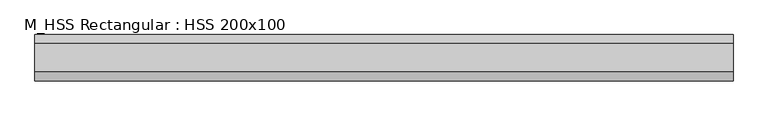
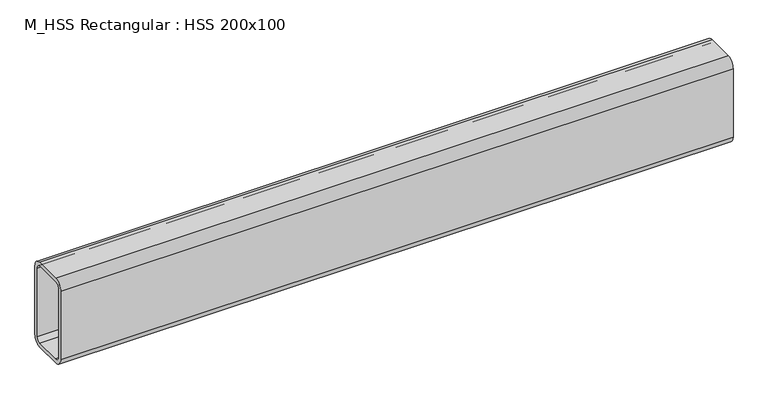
"""IFC4 building model written with IfcOpenShell, lengths in millimetres: beam geometry, M_HSS Rectangular : HSS 200x100."""

from ifc_helpers import new_model, si_unit, point, frame, frame_2d, origin, place, context, project, spatial, polyline, circle_curve, trimmed, segment, composite_curve, outline, extrude, source, transform, mapped, element, save


def m_hss_rectangular_hss_200x100_f713b872(model_context):
    return source(origin(), model_context, "Body", "SweptSolid", [
        extrude(outline(composite_curve([segment(trimmed(circle_curve(frame_2d((-30.94, 80.94)), 19.06), [point((-50.0, 80.94))], [point((-30.94, 100.0))], False, "CARTESIAN"), True, "CONTINUOUS"), segment(polyline([(-30.94, 100.0), (30.94, 100.0)]), True, "CONTINUOUS"), segment(trimmed(circle_curve(frame_2d((30.94, 80.94)), 19.06), [point((30.94, 100.0))], [point((50.0, 80.94))], False, "CARTESIAN"), True, "CONTINUOUS"), segment(polyline([(50.0, 80.94), (50.0, -80.94)]), True, "CONTINUOUS"), segment(trimmed(circle_curve(frame_2d((30.94, -80.94)), 19.06), [point((50.0, -80.94))], [point((30.94, -100.0))], False, "CARTESIAN"), True, "CONTINUOUS"), segment(polyline([(30.94, -100.0), (-30.94, -100.0)]), True, "CONTINUOUS"), segment(trimmed(circle_curve(frame_2d((-30.94, -80.94)), 19.06), [point((-30.94, -100.0))], [point((-50.0, -80.94))], False, "CARTESIAN"), True, "CONTINUOUS"), segment(polyline([(-50.0, -80.94), (-50.0, 80.94)]), True, "CONTINUOUS")], self_intersect=False), holes=[composite_curve([segment(polyline([(30.94, 90.47), (-30.94, 90.47)]), True, "CONTINUOUS"), segment(trimmed(circle_curve(frame_2d((-30.94, 80.94)), 9.53), [point((-30.94, 90.47))], [point((-40.47, 80.94))], True, "CARTESIAN"), True, "CONTINUOUS"), segment(polyline([(-40.47, 80.94), (-40.47, -80.94)]), True, "CONTINUOUS"), segment(trimmed(circle_curve(frame_2d((-30.94, -80.94)), 9.53), [point((-40.47, -80.94))], [point((-30.94, -90.47))], True, "CARTESIAN"), True, "CONTINUOUS"), segment(polyline([(-30.94, -90.47), (30.94, -90.47)]), True, "CONTINUOUS"), segment(trimmed(circle_curve(frame_2d((30.94, -80.94)), 9.53), [point((30.94, -90.47))], [point((40.47, -80.94))], True, "CARTESIAN"), True, "CONTINUOUS"), segment(polyline([(40.47, -80.94), (40.47, 80.94)]), True, "CONTINUOUS"), segment(trimmed(circle_curve(frame_2d((30.94, 80.94)), 9.53), [point((40.47, 80.94))], [point((30.94, 90.47))], True, "CARTESIAN"), True, "CONTINUOUS")], self_intersect=False)]), frame((-758.3, 0.0, 0.0), z_axis=(1.0, 0.0, 0.0), x_axis=(0.0, 1.0, 0.0)), (0.0, 0.0, 1.0), 1503.9),
    ])


if __name__ == "__main__":
    model = new_model("IFC4")
    model_context = context("Model", 3, world=origin())
    ifc_project = project(units=[si_unit("LENGTHUNIT", "METRE", prefix="MILLI")], contexts=[model_context])
    site = spatial("IfcSite", under=ifc_project)
    building = spatial("IfcBuilding", under=site)
    placement = place(None, origin())
    m_hss_rectangular_hss_200x100_shape = m_hss_rectangular_hss_200x100_f713b872(model_context)
    element("IfcBeam", 1, ObjectType="M_HSS Rectangular : HSS 200x100", at=placement, inside=building, context=model_context, shape_type="MappedRepresentation", body=[
        mapped(m_hss_rectangular_hss_200x100_shape, transform((0.0, 0.0, 0.0), x_axis=(1.0, 0.0, 0.0), y_axis=(0.0, 1.0, 0.0), z_axis=(0.0, 0.0, 1.0))),
    ])
    save(model, "model.ifc")
